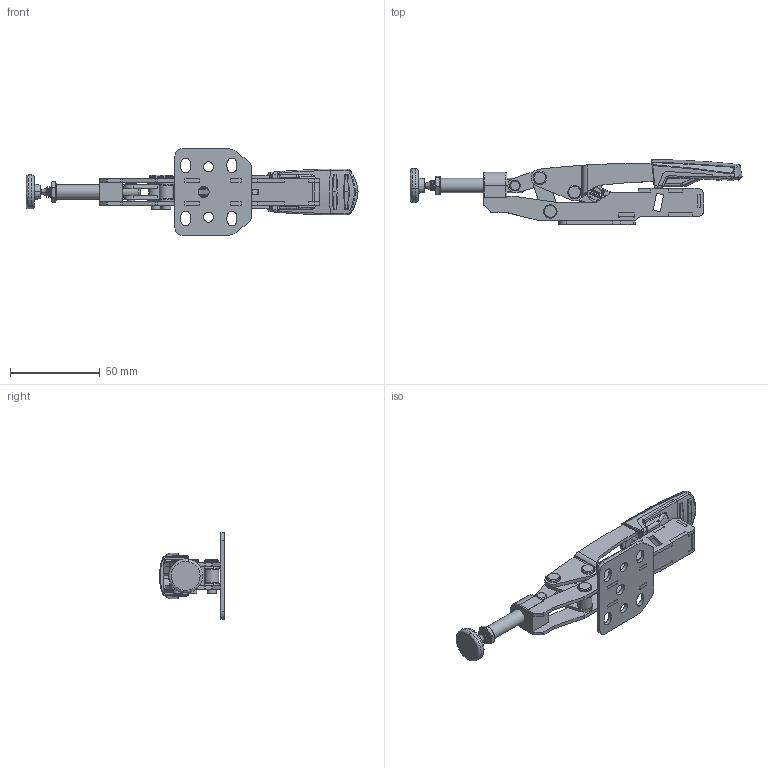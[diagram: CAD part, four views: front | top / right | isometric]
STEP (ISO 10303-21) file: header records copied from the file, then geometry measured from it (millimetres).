
FILE_DESCRIPTION( ('This file contains a STEP AP42 implementation' ,'as created by ZW3D STEP Interface translator.') ,'2;1' );
FILE_NAME( 'STC-IHH15 geschlossen.stp' ,'23 2 2. 9 135', (''), ('ZWCAD Software Co.'), 'Version 1.0', 'ZW3D to STEP translator', '' );
FILE_SCHEMA(('AUTOMOTIVE_DESIGN { 1 0 10303 214 1 1 1 1 }'));
Length unit declared in the file: millimetre
Products named in the file (1): 0
Bounding box: 184.61 x 36.13 x 48 mm (x, y, z)
Volume: 36315 mm3; surface area: 39613.9 mm2
Topology: 34 solids, 34 shells, 1203 faces, 2931 edges, 1797 vertices
Faces by surface type: plane 386, bspline 384, cylinder 350, torus 38, cone 27, sphere 18
Full cylindrical faces by diameter (mm): 1 x2, 1.2 x2, 2.5 x4, 2.727 x1, 2.9 x12, 3.5 x3, 4 x4, 4.1 x4, 4.8 x1, 5 x12, 5.05 x4, 5.1 x3, 5.5 x3, 6 x1, 6.2 x1, 6.6 x2, 7.5 x3, 7.6 x1, 8 x3, 8.05 x1
Entity records: 104863 total; most frequent: CARTESIAN_POINT 78762, ORIENTED_EDGE 5830, DIRECTION 4005, EDGE_CURVE 2915, VERTEX_POINT 1800, AXIS2_PLACEMENT_3D 1372, EDGE_LOOP 1317, VECTOR 1261
